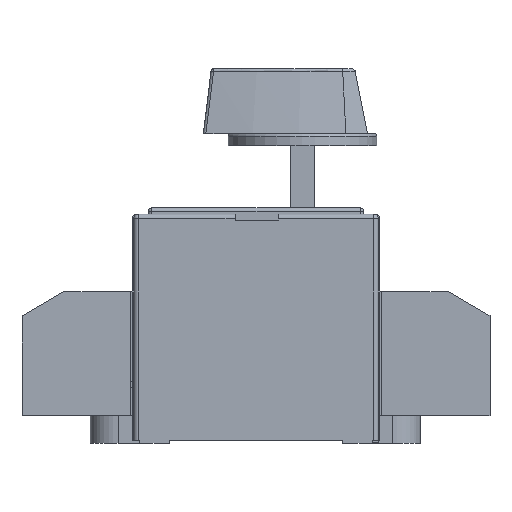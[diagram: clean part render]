
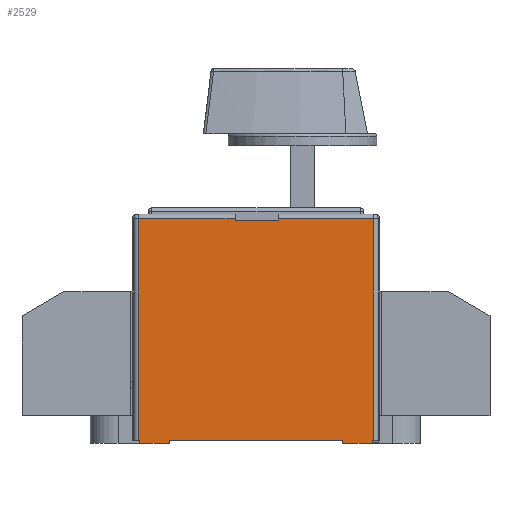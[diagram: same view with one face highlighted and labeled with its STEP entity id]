
A CAD part, left-side view. The second image highlights one B-rep face of the part: STEP entity #2529.
In plain terms, the highlighted planar face has unit normal (-1, 0, 0).
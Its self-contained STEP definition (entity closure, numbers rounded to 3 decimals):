
#546=LINE('',#12675,#1531);
#690=LINE('',#13044,#1675);
#702=LINE('',#13078,#1687);
#816=LINE('',#13325,#1801);
#819=LINE('',#13331,#1804);
#820=LINE('',#13335,#1805);
#821=LINE('',#13337,#1806);
#822=LINE('',#13339,#1807);
#823=LINE('',#13341,#1808);
#824=LINE('',#13343,#1809);
#825=LINE('',#13345,#1810);
#826=LINE('',#13346,#1811);
#827=LINE('',#13348,#1812);
#828=LINE('',#13349,#1813);
#829=LINE('',#13351,#1814);
#830=LINE('',#13353,#1815);
#1531=VECTOR('',#10091,1.);
#1675=VECTOR('',#10355,1.);
#1687=VECTOR('',#10381,1.);
#1801=VECTOR('',#10601,1.);
#1804=VECTOR('',#10608,1.);
#1805=VECTOR('',#10613,1.);
#1806=VECTOR('',#10614,1.);
#1807=VECTOR('',#10615,1.);
#1808=VECTOR('',#10616,1.);
#1809=VECTOR('',#10617,1.);
#1810=VECTOR('',#10618,1.);
#1811=VECTOR('',#10619,1.);
#1812=VECTOR('',#10620,1.);
#1813=VECTOR('',#10621,1.);
#1814=VECTOR('',#10622,1.);
#1815=VECTOR('',#10623,1.);
#2529=ADVANCED_FACE('',(#3337),#3016,.F.);
#3016=PLANE('',#9356);
#3337=FACE_OUTER_BOUND('',#3805,.T.);
#3805=EDGE_LOOP('',(#4763,#4764,#4765,#4766,#4767,#4768,#4769,#4770,#4771,
#4772,#4773,#4774,#4775,#4776,#4777,#4778));
#4763=ORIENTED_EDGE('',*,*,#8049,.F.);
#4764=ORIENTED_EDGE('',*,*,#8050,.T.);
#4765=ORIENTED_EDGE('',*,*,#8051,.T.);
#4766=ORIENTED_EDGE('',*,*,#8052,.F.);
#4767=ORIENTED_EDGE('',*,*,#8053,.T.);
#4768=ORIENTED_EDGE('',*,*,#8054,.T.);
#4769=ORIENTED_EDGE('',*,*,#8047,.T.);
#4770=ORIENTED_EDGE('',*,*,#7899,.T.);
#4771=ORIENTED_EDGE('',*,*,#8044,.F.);
#4772=ORIENTED_EDGE('',*,*,#8055,.F.);
#4773=ORIENTED_EDGE('',*,*,#8056,.T.);
#4774=ORIENTED_EDGE('',*,*,#7722,.T.);
#4775=ORIENTED_EDGE('',*,*,#8057,.F.);
#4776=ORIENTED_EDGE('',*,*,#8058,.F.);
#4777=ORIENTED_EDGE('',*,*,#8059,.T.);
#4778=ORIENTED_EDGE('',*,*,#7915,.T.);
#6896=VERTEX_POINT('',#12674);
#6897=VERTEX_POINT('',#12676);
#7061=VERTEX_POINT('',#13043);
#7062=VERTEX_POINT('',#13045);
#7073=VERTEX_POINT('',#13071);
#7076=VERTEX_POINT('',#13077);
#7156=VERTEX_POINT('',#13324);
#7158=VERTEX_POINT('',#13332);
#7159=VERTEX_POINT('',#13336);
#7160=VERTEX_POINT('',#13338);
#7161=VERTEX_POINT('',#13340);
#7162=VERTEX_POINT('',#13342);
#7163=VERTEX_POINT('',#13344);
#7164=VERTEX_POINT('',#13347);
#7165=VERTEX_POINT('',#13350);
#7166=VERTEX_POINT('',#13352);
#7722=EDGE_CURVE('',#6897,#6896,#546,.T.);
#7899=EDGE_CURVE('',#7062,#7061,#690,.T.);
#7915=EDGE_CURVE('',#7073,#7076,#702,.T.);
#8044=EDGE_CURVE('',#7156,#7061,#816,.T.);
#8047=EDGE_CURVE('',#7158,#7062,#819,.T.);
#8049=EDGE_CURVE('',#7159,#7076,#820,.T.);
#8050=EDGE_CURVE('',#7159,#7160,#821,.T.);
#8051=EDGE_CURVE('',#7160,#7161,#822,.T.);
#8052=EDGE_CURVE('',#7162,#7161,#823,.T.);
#8053=EDGE_CURVE('',#7162,#7163,#824,.T.);
#8054=EDGE_CURVE('',#7163,#7158,#825,.T.);
#8055=EDGE_CURVE('',#7164,#7156,#826,.T.);
#8056=EDGE_CURVE('',#7164,#6897,#827,.T.);
#8057=EDGE_CURVE('',#7165,#6896,#828,.T.);
#8058=EDGE_CURVE('',#7166,#7165,#829,.T.);
#8059=EDGE_CURVE('',#7166,#7073,#830,.T.);
#9356=AXIS2_PLACEMENT_3D('',#13354,#10624,#10625);
#10091=DIRECTION('',(0.,-1.,0.));
#10355=DIRECTION('',(0.,-1.,0.));
#10381=DIRECTION('',(0.,-1.,0.));
#10601=DIRECTION('',(0.,0.,1.));
#10608=DIRECTION('',(0.,0.,-1.));
#10613=DIRECTION('',(0.,0.,-1.));
#10614=DIRECTION('',(0.,1.,0.));
#10615=DIRECTION('',(0.,0.,-1.));
#10616=DIRECTION('',(0.,-1.,0.));
#10617=DIRECTION('',(0.,0.,1.));
#10618=DIRECTION('',(0.,1.,0.));
#10619=DIRECTION('',(0.,1.,0.));
#10620=DIRECTION('',(0.,0.,1.));
#10621=DIRECTION('',(0.,0.,1.));
#10622=DIRECTION('',(0.,1.,0.));
#10623=DIRECTION('',(0.,0.,1.));
#10624=DIRECTION('',(1.,0.,0.));
#10625=DIRECTION('',(0.,0.,-1.));
#12674=CARTESIAN_POINT('',(-69.,-52.735,-3.9));
#12675=CARTESIAN_POINT('',(-69.,-62.235,-3.9));
#12676=CARTESIAN_POINT('',(-69.,3.265,-3.9));
#13043=CARTESIAN_POINT('',(-69.,12.765,-3.9));
#13044=CARTESIAN_POINT('',(-69.,-62.235,-3.9));
#13045=CARTESIAN_POINT('',(-69.,13.265,-3.9));
#13071=CARTESIAN_POINT('',(-69.,-62.235,-3.9));
#13077=CARTESIAN_POINT('',(-69.,-62.735,-3.9));
#13078=CARTESIAN_POINT('',(-69.,-62.235,-3.9));
#13324=CARTESIAN_POINT('',(-69.,12.765,-4.9));
#13325=CARTESIAN_POINT('',(-69.,12.765,-5.9));
#13331=CARTESIAN_POINT('',(-69.,13.265,69.1));
#13332=CARTESIAN_POINT('',(-69.,13.265,67.6));
#13335=CARTESIAN_POINT('',(-69.,-62.735,69.1));
#13336=CARTESIAN_POINT('',(-69.,-62.735,67.6));
#13337=CARTESIAN_POINT('',(-69.,13.265,67.6));
#13338=CARTESIAN_POINT('',(-69.,-31.985,67.6));
#13339=CARTESIAN_POINT('',(-69.,-31.985,69.1));
#13340=CARTESIAN_POINT('',(-69.,-31.985,67.));
#13341=CARTESIAN_POINT('',(-69.,12.765,67.));
#13342=CARTESIAN_POINT('',(-69.,-17.985,67.));
#13343=CARTESIAN_POINT('',(-69.,-17.985,69.1));
#13344=CARTESIAN_POINT('',(-69.,-17.985,67.6));
#13345=CARTESIAN_POINT('',(-69.,13.265,67.6));
#13346=CARTESIAN_POINT('',(-69.,3.265,-4.9));
#13347=CARTESIAN_POINT('',(-69.,3.265,-4.9));
#13348=CARTESIAN_POINT('',(-69.,3.265,-5.9));
#13349=CARTESIAN_POINT('',(-69.,-52.735,-5.9));
#13350=CARTESIAN_POINT('',(-69.,-52.735,-4.9));
#13351=CARTESIAN_POINT('',(-69.,-62.235,-4.9));
#13352=CARTESIAN_POINT('',(-69.,-62.235,-4.9));
#13353=CARTESIAN_POINT('',(-69.,-62.235,-5.9));
#13354=CARTESIAN_POINT('',(-69.,-62.235,69.1));
